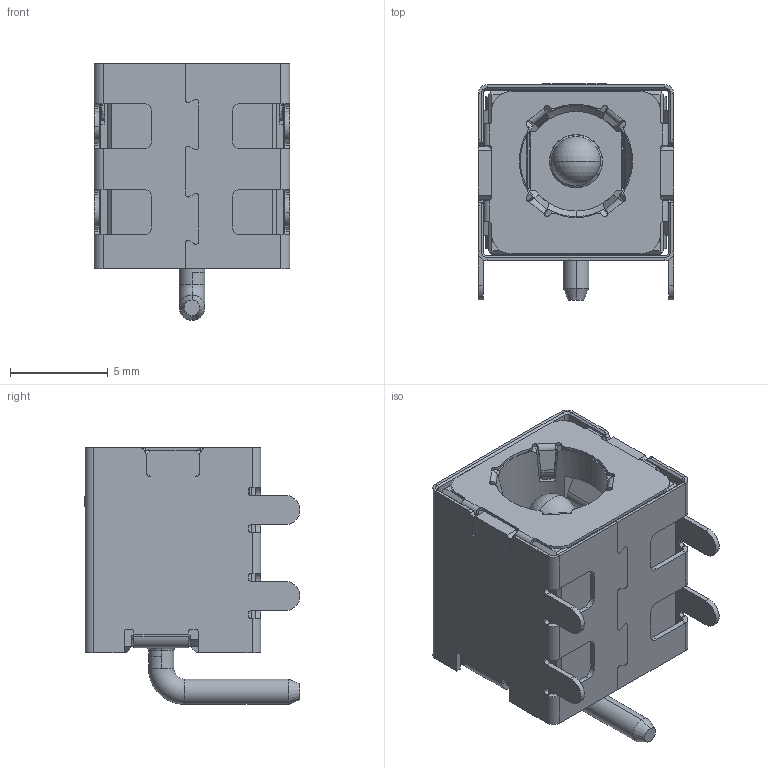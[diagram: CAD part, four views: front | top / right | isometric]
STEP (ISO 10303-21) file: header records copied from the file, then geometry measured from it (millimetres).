
FILE_DESCRIPTION (( 'STEP AP203' ), '1' );
FILE_NAME ('DC-S014A-D025-12A.STEP', '2023-07-14T11:43:31', ( '' ), ( '' ), 'SwSTEP 2.0', 'SolidWorks 2023', '' );
FILE_SCHEMA (( 'CONFIG_CONTROL_DESIGN' ));
Length unit declared in the file: millimetre
Products named in the file (1): DC-S014A-D025-12A
Bounding box: 10 x 11.05 x 13.15 mm (x, y, z)
Volume: 521.1 mm3; surface area: 2034.8 mm2
Topology: 1 solids, 1 shells, 1315 faces, 3569 edges, 2228 vertices
Faces by surface type: plane 819, cylinder 368, bspline 90, cone 32, torus 4, sphere 2
Entity records: 45509 total; most frequent: CARTESIAN_POINT 12883, ORIENTED_EDGE 7130, DIRECTION 6342, EDGE_CURVE 3565, LINE 2404, VECTOR 2404, VERTEX_POINT 2226, AXIS2_PLACEMENT_3D 1969
